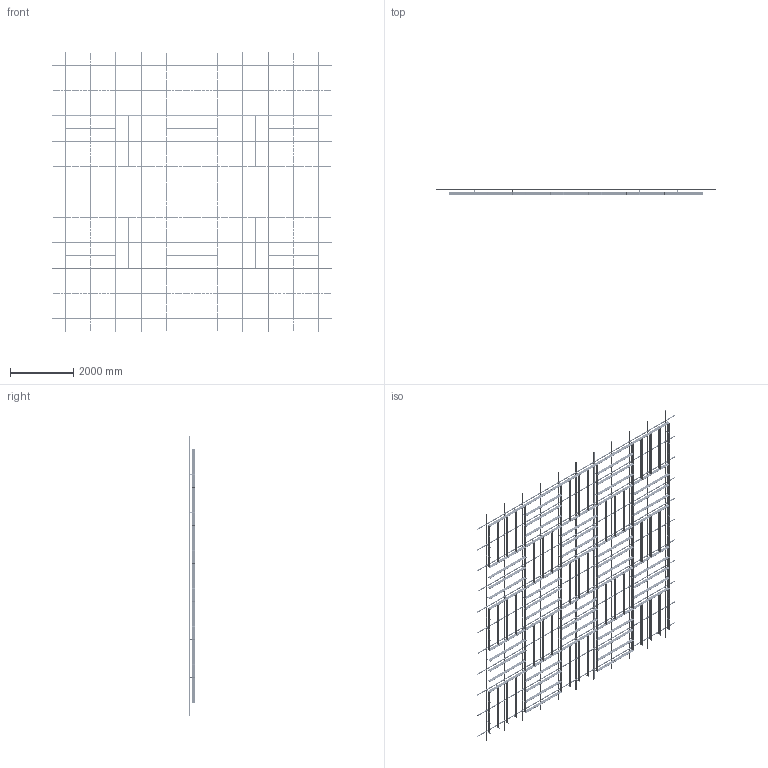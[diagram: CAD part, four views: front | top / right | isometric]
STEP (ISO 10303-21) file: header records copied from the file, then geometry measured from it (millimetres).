
FILE_DESCRIPTION (( 'STEP AP203' ), '1' );
FILE_NAME ('22 ìèäè ñ ïñ.step', '2025-11-26T11:50:24', ( '' ), ( '' ), 'SwSTEP 2.0', 'SolidWorks 2020', '' );
FILE_SCHEMA (( 'CONFIG_CONTROL_DESIGN' ));
Length unit declared in the file: millimetre
Products named in the file (5): Var22; Ñèñòåìà â çîíå 8000õ8000; 22 ìèäè ñ ïñ; SS.SEMA.2400 - Ñèìà-ïðîôèëü; SS.SEMA.2400 - Ñèìà-ïðîôèëü — îáðåçàí 1600
Assembly tree (90 placements, depth 3):
  22 ìèäè ñ ïñ
    Ñèñòåìà â çîíå 8000õ8000
      SS.SEMA.2400 - Ñèìà-ïðîôèëü  x66
      SS.SEMA.2400 - Ñèìà-ïðîôèëü — îáðåçàí 1600  x22
    Var22
Bounding box: 8800 x 205 x 8800 mm (x, y, z)
Volume: 187584412 mm3; surface area: 74426746.1 mm2
Topology: 1247 solids, 1247 shells, 21726 faces, 56288 edges, 37056 vertices
Faces by surface type: cylinder 13586, plane 8140
Entity records: 134805 total; most frequent: CARTESIAN_POINT 31828, DIRECTION 19718, ORIENTED_EDGE 19424, EDGE_CURVE 9712, AXIS2_PLACEMENT_3D 9610, VERTEX_POINT 6464, EDGE_LOOP 5732, ADVANCED_FACE 5570
